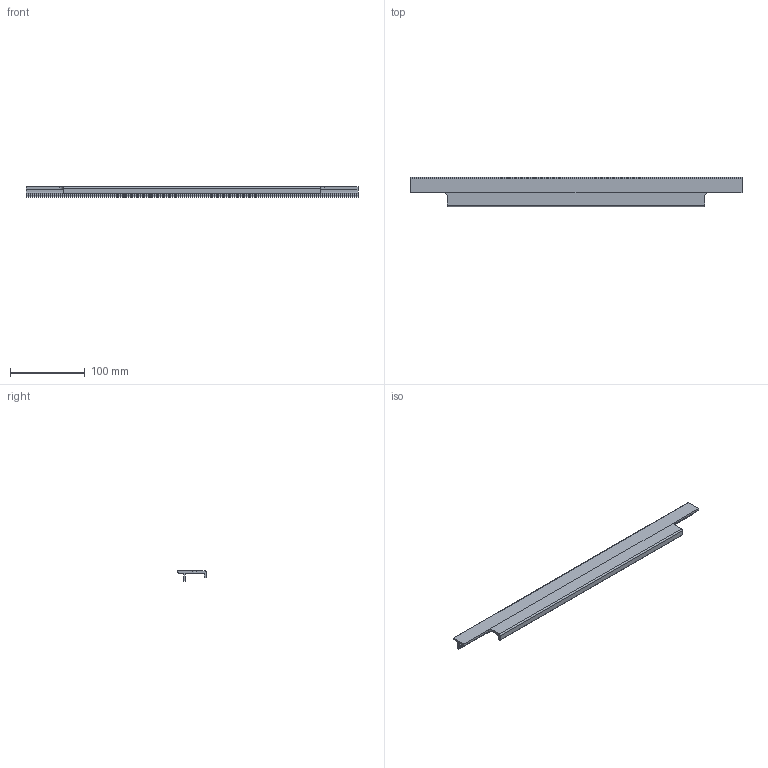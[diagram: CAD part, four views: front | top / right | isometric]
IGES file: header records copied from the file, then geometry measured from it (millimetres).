
Start section: Data from Parasolid IGES Translator 15.0.47, Copyright(c) 2006 Siemens P LM Software. All Rights Reserved.
Global section: file name: 9105820.igs; native system:  By UGS Corp.; preprocessor: XPlus GENERIC/IGES 3.0; author: Noname; organization: Noname; date: 20140122.180044; units: millimetre
Bounding box: 445 x 39 x 14 mm (x, y, z)
Surface area: 47700.8 mm2 (no closed solid volume)
Topology: 0 solids, 0 shells, 40 faces, 224 edges, 224 vertices
Faces by surface type: extrusion 30, revolution 10
